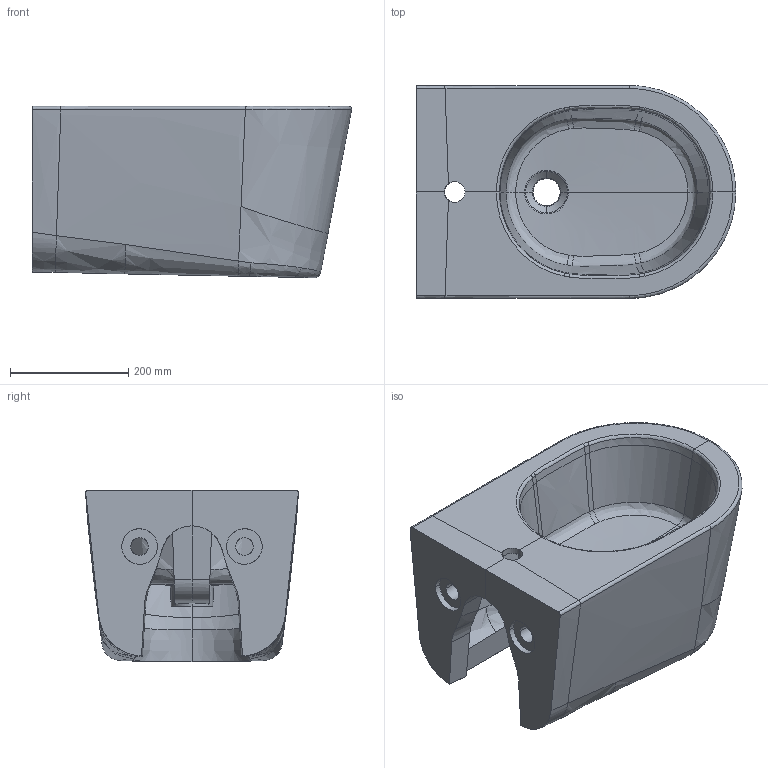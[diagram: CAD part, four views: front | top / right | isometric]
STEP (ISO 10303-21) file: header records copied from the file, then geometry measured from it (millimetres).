
FILE_DESCRIPTION(('CATIA V5 STEP Exchange'),'2;1');
FILE_NAME('C:\Users\167035\Downloads\7354\3D_7354.stp','2025-07-21T10:17:07+00:00',('none'),('none'),'CATIA Version 5 Release 19 SP 5 (IN-10)','CATIA V5 STEP AP214','none');
FILE_SCHEMA(('AUTOMOTIVE_DESIGN { 1 0 10303 214 1 1 1 1 }'));
Length unit declared in the file: millimetre
Products named in the file (1): bidet sospeso
Bounding box: 539.46 x 359.47 x 289.51 mm (x, y, z)
Surface area: 1140501.8 mm2 (no closed solid volume)
Topology: 0 solids, 8 shells, 176 faces, 531 edges, 359 vertices
Faces by surface type: bspline 132, plane 26, cylinder 14, cone 4
Entity records: 23897 total; most frequent: CARTESIAN_POINT 20469, ORIENTED_EDGE 902, EDGE_CURVE 531, B_SPLINE_CURVE_WITH_KNOTS 422, VERTEX_POINT 359, EDGE_LOOP 182, DIRECTION 178, ADVANCED_FACE 176
